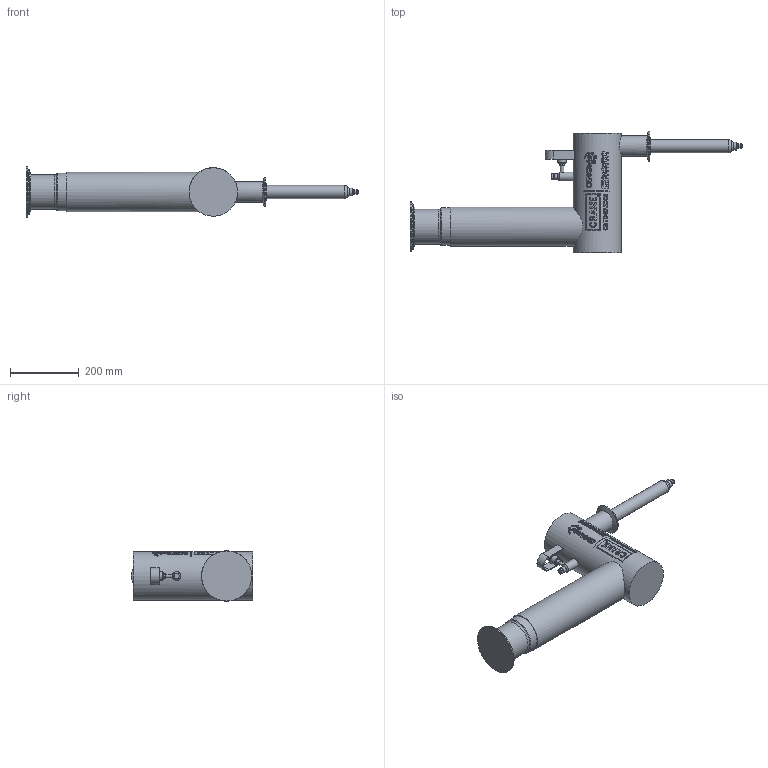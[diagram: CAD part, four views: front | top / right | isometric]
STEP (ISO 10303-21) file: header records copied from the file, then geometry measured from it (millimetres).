
FILE_DESCRIPTION (( 'STEP AP203' ), '1' );
FILE_NAME ('CA00340-TF.step', '2025-12-17T20:01:39', ( '' ), ( '' ), 'SwSTEP 2.0', 'SolidWorks 2023', '' );
FILE_SCHEMA (( 'CONFIG_CONTROL_DESIGN' ));
Length unit declared in the file: inch
Products named in the file (1): CA00340-TF
Bounding box: 968.17 x 354.8 x 147.19 mm (x, y, z)
Volume: 10874554.2 mm3; surface area: 453807.2 mm2
Topology: 1 solids, 1 shells, 678 faces, 1698 edges, 1124 vertices
Faces by surface type: plane 416, cylinder 179, bspline 53, torus 23, cone 7
Full cylindrical faces by diameter (mm): 1.494 x1, 1.636 x1, 1.778 x1, 1.935 x4, 2.039 x1, 2.302 x1, 2.967 x1, 3.071 x1, 3.409 x1, 3.632 x1, 3.807 x1, 4.009 x1, 4.573 x1, 6.177 x1, 7.63 x1, 7.722 x1, 9.232 x1, 10.16 x1, 10.236 x2, 10.287 x1, 10.749 x1, 12.7 x1, 15.748 x2, 23.012 x1, 24.638 x1, 25.4 x1, 26.873 x1, 30.988 x1, 38.227 x1, 48.59 x1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
Entity records: 28208 total; most frequent: CARTESIAN_POINT 13569, ORIENTED_EDGE 3192, DIRECTION 2560, EDGE_CURVE 1596, VERTEX_POINT 1106, AXIS2_PLACEMENT_3D 874, EDGE_LOOP 866, LINE 812
